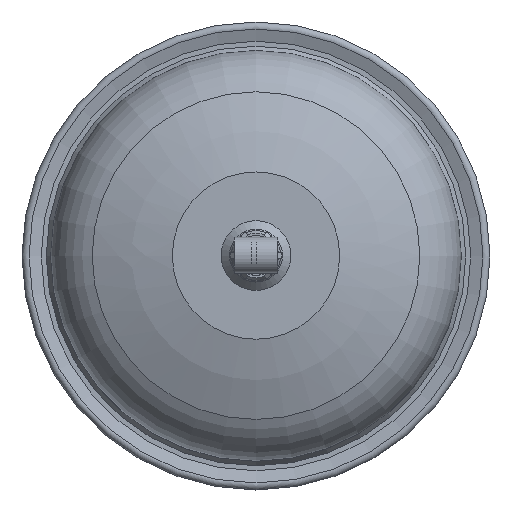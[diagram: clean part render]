
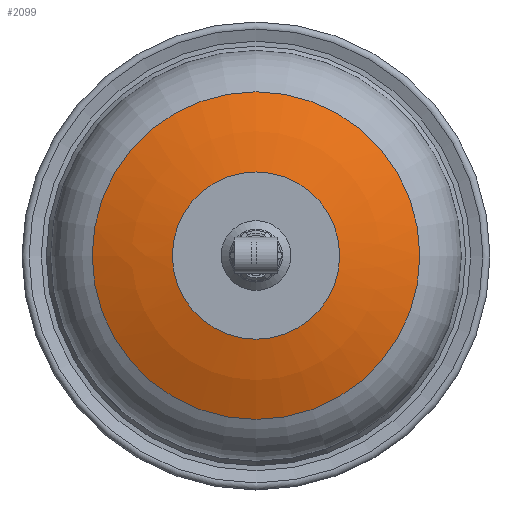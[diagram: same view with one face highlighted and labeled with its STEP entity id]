
A CAD part, top view. The second image highlights one B-rep face of the part: STEP entity #2099.
In plain terms, the highlighted spherical face has radius 211.55 mm.
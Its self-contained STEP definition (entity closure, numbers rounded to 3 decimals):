
#111=SPHERICAL_SURFACE('',#2243,211.55);
#224=FACE_OUTER_BOUND('',#335,.T.);
#335=EDGE_LOOP('',(#1498,#1499,#1500,#1501,#1502,#1503));
#861=CIRCLE('',#2240,85.768);
#862=CIRCLE('',#2241,85.768);
#864=CIRCLE('',#2244,43.797);
#865=CIRCLE('',#2245,43.797);
#866=CIRCLE('',#2246,211.55);
#966=VERTEX_POINT('',#3103);
#967=VERTEX_POINT('',#3104);
#968=VERTEX_POINT('',#3109);
#969=VERTEX_POINT('',#3110);
#1176=EDGE_CURVE('',#966,#967,#861,.T.);
#1177=EDGE_CURVE('',#967,#966,#862,.T.);
#1179=EDGE_CURVE('',#968,#969,#864,.T.);
#1180=EDGE_CURVE('',#969,#968,#865,.T.);
#1181=EDGE_CURVE('',#969,#967,#866,.T.);
#1498=ORIENTED_EDGE('',*,*,#1179,.F.);
#1499=ORIENTED_EDGE('',*,*,#1180,.F.);
#1500=ORIENTED_EDGE('',*,*,#1181,.T.);
#1501=ORIENTED_EDGE('',*,*,#1177,.T.);
#1502=ORIENTED_EDGE('',*,*,#1176,.T.);
#1503=ORIENTED_EDGE('',*,*,#1181,.F.);
#2099=ADVANCED_FACE('',(#224),#111,.T.);
#2240=AXIS2_PLACEMENT_3D('',#3105,#2475,#2476);
#2241=AXIS2_PLACEMENT_3D('',#3106,#2477,#2478);
#2243=AXIS2_PLACEMENT_3D('',#3108,#2481,#2482);
#2244=AXIS2_PLACEMENT_3D('',#3111,#2483,#2484);
#2245=AXIS2_PLACEMENT_3D('',#3112,#2485,#2486);
#2246=AXIS2_PLACEMENT_3D('',#3113,#2487,#2488);
#2475=DIRECTION('center_axis',(0.,0.,1.));
#2476=DIRECTION('ref_axis',(1.,0.,0.));
#2477=DIRECTION('center_axis',(0.,0.,1.));
#2478=DIRECTION('ref_axis',(1.,0.,0.));
#2481=DIRECTION('center_axis',(0.,0.,1.));
#2482=DIRECTION('ref_axis',(1.,0.,0.));
#2483=DIRECTION('center_axis',(0.,0.,1.));
#2484=DIRECTION('ref_axis',(1.,0.,0.));
#2485=DIRECTION('center_axis',(0.,0.,1.));
#2486=DIRECTION('ref_axis',(1.,0.,0.));
#2487=DIRECTION('center_axis',(0.,-1.,0.));
#2488=DIRECTION('ref_axis',(-1.,0.,0.));
#3103=CARTESIAN_POINT('',(85.768,0.,-33.583));
#3104=CARTESIAN_POINT('',(-85.768,0.,-33.583));
#3105=CARTESIAN_POINT('Origin',(0.,0.,-33.583));
#3106=CARTESIAN_POINT('Origin',(0.,0.,-33.583));
#3108=CARTESIAN_POINT('Origin',(0.,0.,-226.967));
#3109=CARTESIAN_POINT('',(43.797,0.,-20.));
#3110=CARTESIAN_POINT('',(-43.797,0.,-20.));
#3111=CARTESIAN_POINT('Origin',(0.,0.,-20.));
#3112=CARTESIAN_POINT('Origin',(0.,0.,-20.));
#3113=CARTESIAN_POINT('Origin',(0.,0.,-226.967));
